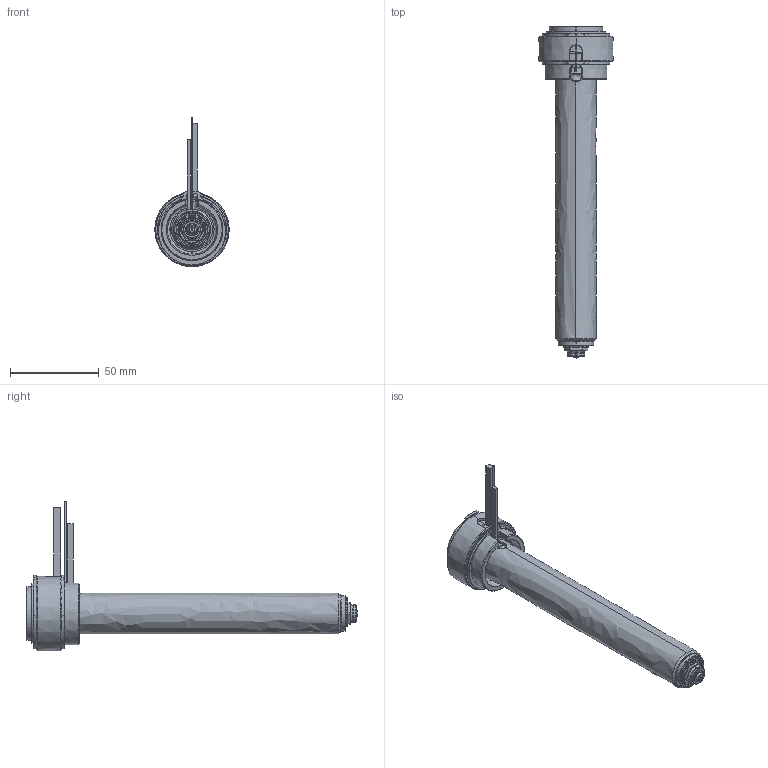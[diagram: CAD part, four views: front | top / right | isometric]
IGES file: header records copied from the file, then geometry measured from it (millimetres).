
Start section: SolidWorks IGES file using analytic representation for surfaces
Global section: file name: C:\Documents and Settings\ws-20\Desktop\TEM\UGER3554-M-A-0 [Øb-0.70  ØC-6.0].IGS; native system: SolidWorks 2012; preprocessor: SolidWorks 2012; author: ws-20; date: 120410.095142; units: millimetre
Bounding box: 42 x 187.4 x 84.4 mm (x, y, z)
Surface area: 41978.6 mm2 (no closed solid volume)
Topology: 0 solids, 0 shells, 192 faces, 3210 edges, 3210 vertices
Faces by surface type: revolution 121, bspline 71
